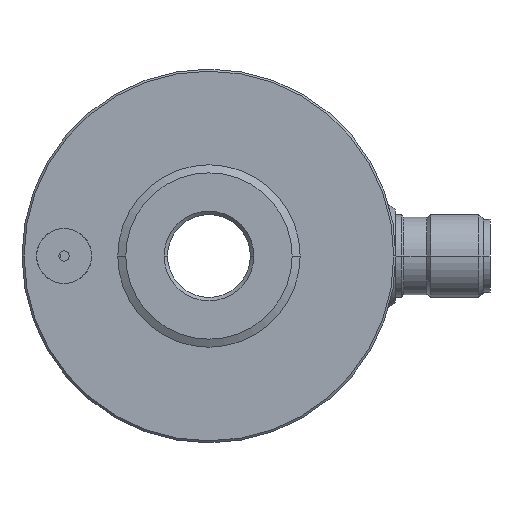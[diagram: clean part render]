
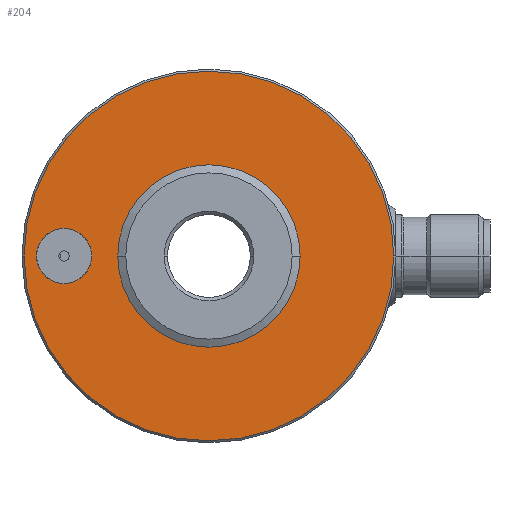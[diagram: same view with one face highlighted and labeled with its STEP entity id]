
A CAD part, left-side view. The second image highlights one B-rep face of the part: STEP entity #204.
In plain terms, the highlighted planar face has unit normal (-1, 0, 0).
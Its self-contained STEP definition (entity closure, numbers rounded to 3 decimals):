
#204 = ADVANCED_FACE( '', ( #491, #492, #493 ), #494, .T. );
#491 = FACE_OUTER_BOUND( '', #787, .T. );
#492 = FACE_BOUND( '', #788, .T. );
#493 = FACE_BOUND( '', #789, .T. );
#494 = PLANE( '', #790 );
#787 = EDGE_LOOP( '', ( #1742, #1743 ) );
#788 = EDGE_LOOP( '', ( #1744, #1745 ) );
#789 = EDGE_LOOP( '', ( #1746, #1747, #1748, #1749 ) );
#790 = AXIS2_PLACEMENT_3D( '', #1750, #1751, #1752 );
#1742 = ORIENTED_EDGE( '', *, *, #1801, .T. );
#1743 = ORIENTED_EDGE( '', *, *, #2073, .T. );
#1744 = ORIENTED_EDGE( '', *, *, #2013, .T. );
#1745 = ORIENTED_EDGE( '', *, *, #1919, .T. );
#1746 = ORIENTED_EDGE( '', *, *, #1995, .F. );
#1747 = ORIENTED_EDGE( '', *, *, #1992, .T. );
#1748 = ORIENTED_EDGE( '', *, *, #1963, .F. );
#1749 = ORIENTED_EDGE( '', *, *, #1983, .F. );
#1750 = CARTESIAN_POINT( '', ( -37.5, 18.725, 0. ) );
#1751 = DIRECTION( '', ( -1., 0., 0. ) );
#1752 = DIRECTION( '', ( 0., 1., 0. ) );
#1801 = EDGE_CURVE( '', #2097, #2101, #2103, .T. );
#1919 = EDGE_CURVE( '', #2324, #2321, #2325, .T. );
#1963 = EDGE_CURVE( '', #2406, #2408, #2409, .T. );
#1983 = EDGE_CURVE( '', #2442, #2406, #2444, .T. );
#1992 = EDGE_CURVE( '', #2456, #2408, #2457, .T. );
#1995 = EDGE_CURVE( '', #2456, #2442, #2460, .T. );
#2013 = EDGE_CURVE( '', #2321, #2324, #2478, .T. );
#2073 = EDGE_CURVE( '', #2101, #2097, #2544, .T. );
#2097 = VERTEX_POINT( '', #2574 );
#2101 = VERTEX_POINT( '', #2579 );
#2103 = CIRCLE( '', #2582, 26.8 );
#2321 = VERTEX_POINT( '', #2888 );
#2324 = VERTEX_POINT( '', #2892 );
#2325 = CIRCLE( '', #2893, 4. );
#2406 = VERTEX_POINT( '', #2998 );
#2408 = VERTEX_POINT( '', #3001 );
#2409 = CIRCLE( '', #3002, 10.65 );
#2442 = VERTEX_POINT( '', #3045 );
#2444 = LINE( '', #3048, #3049 );
#2456 = VERTEX_POINT( '', #3065 );
#2457 = LINE( '', #3066, #3067 );
#2460 = CIRCLE( '', #3071, 10.65 );
#2478 = CIRCLE( '', #3089, 4. );
#2544 = CIRCLE( '', #3192, 26.8 );
#2574 = CARTESIAN_POINT( '', ( -37.5, 26.8, 0. ) );
#2579 = CARTESIAN_POINT( '', ( -37.5, -26.8, 0. ) );
#2582 = AXIS2_PLACEMENT_3D( '', #3220, #3221, #3222 );
#2888 = CARTESIAN_POINT( '', ( -37.5, 25., 0. ) );
#2892 = CARTESIAN_POINT( '', ( -37.5, 17., 0. ) );
#2893 = AXIS2_PLACEMENT_3D( '', #3450, #3451, #3452 );
#2998 = CARTESIAN_POINT( '', ( -37.5, 9.5, -4.814 ) );
#3001 = CARTESIAN_POINT( '', ( -37.5, -9.5, -4.814 ) );
#3002 = AXIS2_PLACEMENT_3D( '', #3532, #3533, #3534 );
#3045 = CARTESIAN_POINT( '', ( -37.5, 9.5, 4.814 ) );
#3048 = CARTESIAN_POINT( '', ( -37.5, 9.5, 10. ) );
#3049 = VECTOR( '', #3570, 1. );
#3065 = CARTESIAN_POINT( '', ( -37.5, -9.5, 4.814 ) );
#3066 = CARTESIAN_POINT( '', ( -37.5, -9.5, 10. ) );
#3067 = VECTOR( '', #3587, 1. );
#3071 = AXIS2_PLACEMENT_3D( '', #3592, #3593, #3594 );
#3089 = AXIS2_PLACEMENT_3D( '', #3646, #3647, #3648 );
#3192 = AXIS2_PLACEMENT_3D( '', #3806, #3807, #3808 );
#3220 = CARTESIAN_POINT( '', ( -37.5, 0., 0. ) );
#3221 = DIRECTION( '', ( -1., 0., 0. ) );
#3222 = DIRECTION( '', ( 0., 1., 0. ) );
#3450 = CARTESIAN_POINT( '', ( -37.5, 21., 0. ) );
#3451 = DIRECTION( '', ( 1., 0., 0. ) );
#3452 = DIRECTION( '', ( 0., 1., 0. ) );
#3532 = CARTESIAN_POINT( '', ( -37.5, 0., 0. ) );
#3533 = DIRECTION( '', ( -1., 0., 0. ) );
#3534 = DIRECTION( '', ( 0., 1., 0. ) );
#3570 = DIRECTION( '', ( 0., 0., -1. ) );
#3587 = DIRECTION( '', ( 0., 0., -1. ) );
#3592 = CARTESIAN_POINT( '', ( -37.5, 0., 0. ) );
#3593 = DIRECTION( '', ( -1., 0., 0. ) );
#3594 = DIRECTION( '', ( 0., 1., 0. ) );
#3646 = CARTESIAN_POINT( '', ( -37.5, 21., 0. ) );
#3647 = DIRECTION( '', ( 1., 0., 0. ) );
#3648 = DIRECTION( '', ( 0., 1., 0. ) );
#3806 = CARTESIAN_POINT( '', ( -37.5, 0., 0. ) );
#3807 = DIRECTION( '', ( -1., 0., 0. ) );
#3808 = DIRECTION( '', ( 0., 1., 0. ) );
